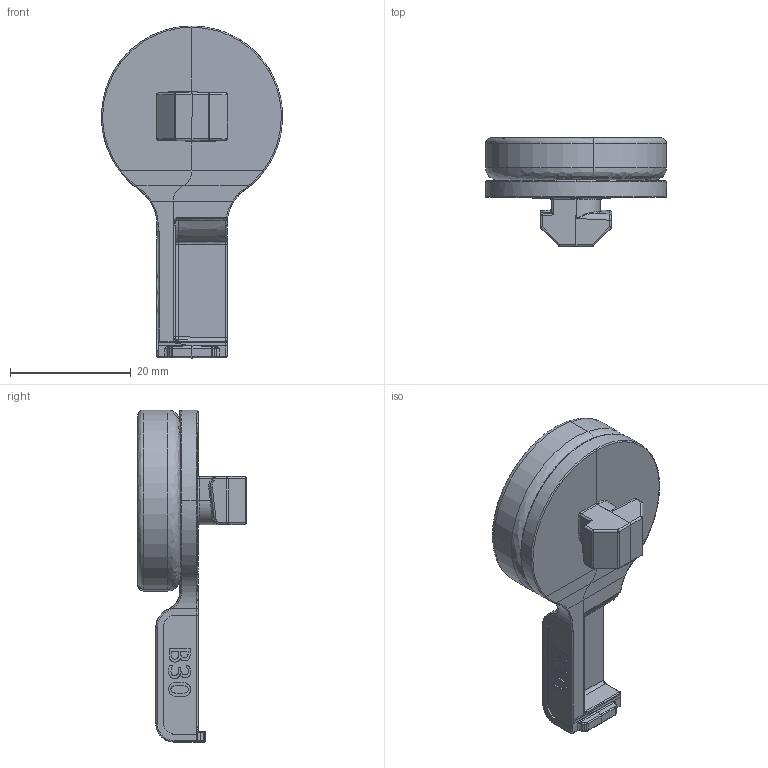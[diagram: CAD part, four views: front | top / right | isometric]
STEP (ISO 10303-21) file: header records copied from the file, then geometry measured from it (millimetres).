
FILE_DESCRIPTION (( 'STEP AP214' ), '1' );
FILE_NAME ('098T030KGN08.step', '2018-12-03T15:52:53', ( '' ), ( '' ), 'SwSTEP 2.0', 'SolidWorks 2017', '' );
FILE_SCHEMA (( 'AUTOMOTIVE_DESIGN' ));
Length unit declared in the file: millimetre
Products named in the file (3): FATH-00016820_098TG030; FATH-00016704M_098T030KGN08R01; 098T030KGN08
Assembly tree (2 placements, depth 2):
  098T030KGN08
    FATH-00016704M_098T030KGN08R01
    FATH-00016820_098TG030
Bounding box: 30 x 18 x 55 mm (x, y, z)
Volume: 8635.7 mm3; surface area: 5373.9 mm2
Topology: 2 solids, 2 shells, 320 faces, 740 edges, 426 vertices
Faces by surface type: bspline 150, cylinder 90, plane 71, cone 9
Entity records: 13811 total; most frequent: CARTESIAN_POINT 7520, ORIENTED_EDGE 1468, DIRECTION 1014, EDGE_CURVE 734, VERTEX_POINT 426, AXIS2_PLACEMENT_3D 361, EDGE_LOOP 328, FACE_OUTER_BOUND 320
